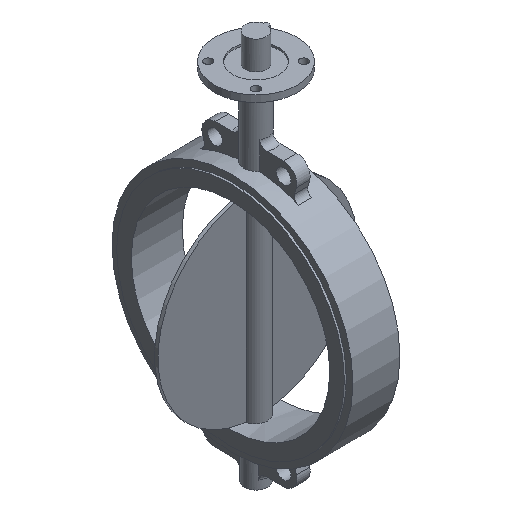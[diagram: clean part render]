
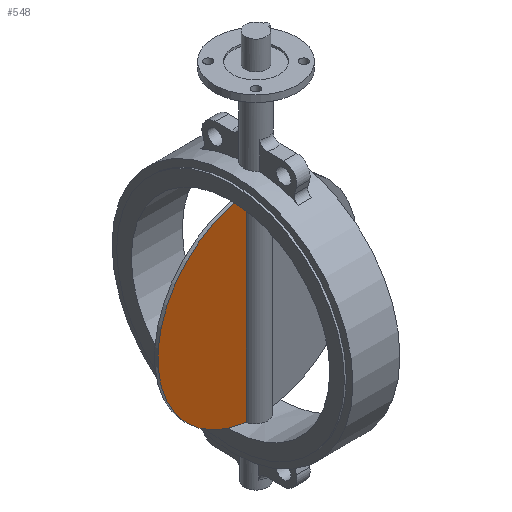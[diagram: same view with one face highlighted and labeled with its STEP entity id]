
A CAD part, isometric view. The second image highlights one B-rep face of the part: STEP entity #548.
In plain terms, the highlighted planar face has unit normal (0, -1, 0).
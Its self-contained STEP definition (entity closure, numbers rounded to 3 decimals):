
#548=ADVANCED_FACE('',(#1309),#1311,.T.);
#1309=FACE_BOUND('',#1310,.T.);
#1310=EDGE_LOOP('',(#1842,#1843));
#1311=PLANE('',#1312);
#1312=AXIS2_PLACEMENT_3D('',#1313,#1314,#1315);
#1313=CARTESIAN_POINT('',(0.,-2.5,0.));
#1314=DIRECTION('',(0.,-1.,0.));
#1315=DIRECTION('',(0.,0.,1.));
#1842=ORIENTED_EDGE('',*,*,#2088,.T.);
#1843=ORIENTED_EDGE('',*,*,#2121,.T.);
#2088=EDGE_CURVE('',#2380,#2377,#2381,.F.);
#2121=EDGE_CURVE('',#2377,#2380,#2424,.T.);
#2377=VERTEX_POINT('',#3933);
#2380=VERTEX_POINT('',#3947);
#2381=LINE('',#3948,#3949);
#2424=CIRCLE('',#4078,150.75);
#3933=CARTESIAN_POINT('',(-17.321,-2.5,149.752));
#3947=CARTESIAN_POINT('',(-17.321,-2.5,-149.752));
#3948=CARTESIAN_POINT('',(-17.321,-2.5,149.752));
#3949=VECTOR('',#3950,1.);
#3950=DIRECTION('',(0.,0.,-1.));
#4078=AXIS2_PLACEMENT_3D('',#4079,#4080,#4081);
#4079=CARTESIAN_POINT('',(0.,-2.5,0.));
#4080=DIRECTION('',(0.,-1.,0.));
#4081=DIRECTION('',(-0.115,0.,0.993));
